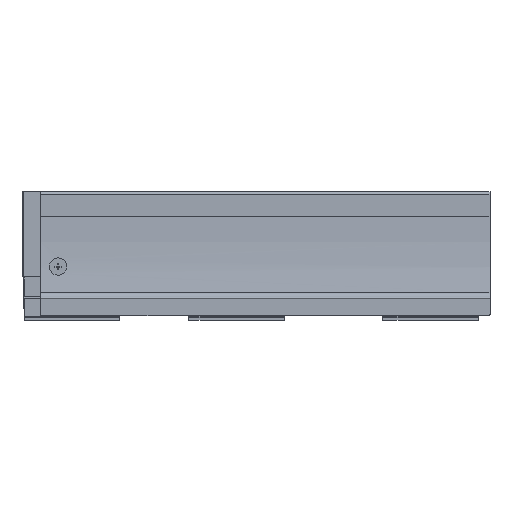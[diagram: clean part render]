
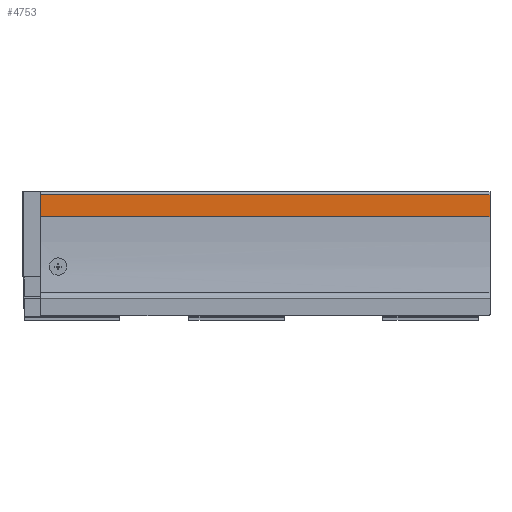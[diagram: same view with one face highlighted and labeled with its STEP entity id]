
A CAD part, left-side view. The second image highlights one B-rep face of the part: STEP entity #4753.
In plain terms, the highlighted planar face has unit normal (-1, 0, 0).
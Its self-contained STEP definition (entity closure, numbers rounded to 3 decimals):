
#149 = CARTESIAN_POINT ( 'NONE',  ( -19.87, 0., 57.888 ) ) ;
#150 = CARTESIAN_POINT ( 'NONE',  ( -19.87, 0., 78.498 ) ) ;
#387 = VERTEX_POINT ( 'NONE', #150 ) ;
#393 = VERTEX_POINT ( 'NONE', #149 ) ;
#644 = VECTOR ( 'NONE', #2793, 1000. ) ;
#645 = LINE ( 'NONE', #2792, #644 ) ;
#1067 = ORIENTED_EDGE ( 'NONE', *, *, #4086, .F. ) ;
#1068 = ORIENTED_EDGE ( 'NONE', *, *, #4205, .T. ) ;
#1069 = ORIENTED_EDGE ( 'NONE', *, *, #4556, .T. ) ;
#1070 = ORIENTED_EDGE ( 'NONE', *, *, #4505, .F. ) ;
#1190 = EDGE_LOOP ( 'NONE', ( #1067, #1068, #1069, #1070 ) ) ;
#1821 = LINE ( 'NONE', #3430, #2428 ) ;
#1905 = VERTEX_POINT ( 'NONE', #2470 ) ;
#2029 = VERTEX_POINT ( 'NONE', #2509 ) ;
#2040 = FACE_OUTER_BOUND ( 'NONE', #1190, .T. ) ;
#2155 = LINE ( 'NONE', #2964, #2157 ) ;
#2157 = VECTOR ( 'NONE', #2965, 1000. ) ;
#2331 = VECTOR ( 'NONE', #3498, 1000. ) ;
#2337 = LINE ( 'NONE', #3497, #2331 ) ;
#2428 = VECTOR ( 'NONE', #3431, 1000. ) ;
#2470 = CARTESIAN_POINT ( 'NONE',  ( -19.87, 423.8, 78.498 ) ) ;
#2509 = CARTESIAN_POINT ( 'NONE',  ( -19.87, 423.8, 57.888 ) ) ;
#2792 = CARTESIAN_POINT ( 'NONE',  ( -19.87, 423.8, 78.498 ) ) ;
#2793 = DIRECTION ( 'NONE',  ( 0., 0., 1. ) ) ;
#2964 = CARTESIAN_POINT ( 'NONE',  ( -19.87, 440., 57.888 ) ) ;
#2965 = DIRECTION ( 'NONE',  ( 0., -1., 0. ) ) ;
#3430 = CARTESIAN_POINT ( 'NONE',  ( -19.87, 440., 78.498 ) ) ;
#3431 = DIRECTION ( 'NONE',  ( 0., -1., 0. ) ) ;
#3497 = CARTESIAN_POINT ( 'NONE',  ( -19.87, 0., 78.498 ) ) ;
#3498 = DIRECTION ( 'NONE',  ( 0., 0., 1. ) ) ;
#3814 = CARTESIAN_POINT ( 'NONE',  ( -19.87, 440., 78.498 ) ) ;
#3815 = PLANE ( 'NONE',  #4150 ) ;
#3817 = DIRECTION ( 'NONE',  ( 1., 0., 0. ) ) ;
#3818 = DIRECTION ( 'NONE',  ( 0., 0., 1. ) ) ;
#4086 = EDGE_CURVE ( 'NONE', #2029, #1905, #645, .T. ) ;
#4150 = AXIS2_PLACEMENT_3D ( 'NONE', #3814, #3817, #3818 ) ;
#4205 = EDGE_CURVE ( 'NONE', #2029, #393, #2155, .T. ) ;
#4505 = EDGE_CURVE ( 'NONE', #1905, #387, #1821, .T. ) ;
#4556 = EDGE_CURVE ( 'NONE', #393, #387, #2337, .T. ) ;
#4753 = ADVANCED_FACE ( 'NONE', ( #2040 ), #3815, .F. ) ;
